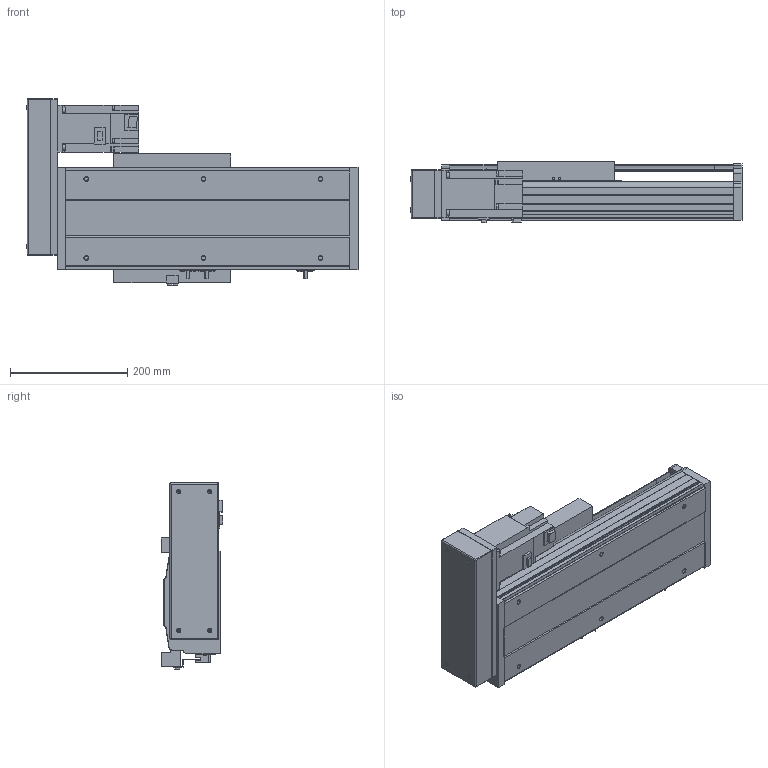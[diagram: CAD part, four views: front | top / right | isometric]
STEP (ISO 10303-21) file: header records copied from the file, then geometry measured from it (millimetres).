
FILE_DESCRIPTION( ( 'STEP AP214' ), '1' );
FILE_NAME( 'x:/temp/worker_27/temp/exporttempdir_6708_437_uyLlD/format_0/PSS200-L10-S150-BL-T75-C1-N(0).stp', '2022-06-06T02:49:33', ( 'License CC BY-ND 4.0' ), ( 'CADENAS' ), ' ', 'PARTsolutions', ' ' );
FILE_SCHEMA( ( 'AUTOMOTIVE_DESIGN { 1 0 10303 214 1 1 1 1 }' ) );
Length unit declared in the file: millimetre
Products named in the file (8): PSS200-L10-S150-BL-T75-C1-N(0); _PSS200-S150-BL-C1-N_body; _PSS200-N_Q; _PSS200-BL-C1-N_sl; _PSS200-N_sensor; _PSS200BL-N_h; _T75-p1; _PSS200-S150-BL-N_S
Assembly tree (9 placements, depth 2):
  PSS200-L10-S150-BL-T75-C1-N(0)
    _PSS200-S150-BL-C1-N_body
    _PSS200-N_Q
    _PSS200-BL-C1-N_sl
    _PSS200-N_sensor  x3
    _PSS200BL-N_h
    _T75-p1
    _PSS200-S150-BL-N_S
Bounding box: 566.85 x 105.3 x 317.86 mm (x, y, z)
Volume: 5633528.5 mm3; surface area: 1057503.9 mm2
Topology: 9 solids, 9 shells, 592 faces, 1573 edges, 1038 vertices
Faces by surface type: plane 466, cylinder 108, cone 14, sphere 4
Full cylindrical faces by diameter (mm): 4 x2, 4.5 x4, 6 x7, 6.647 x10, 7.4 x4, 8 x8, 10 x6, 25 x1, 40 x1, 67 x1
Entity records: 20650 total; most frequent: CARTESIAN_POINT 2827, DIRECTION 2712, ORIENTED_EDGE 2702, EDGE_CURVE 1351, LINE 1090, VECTOR 1090, VERTEX_POINT 926, AXIS2_PLACEMENT_3D 811
